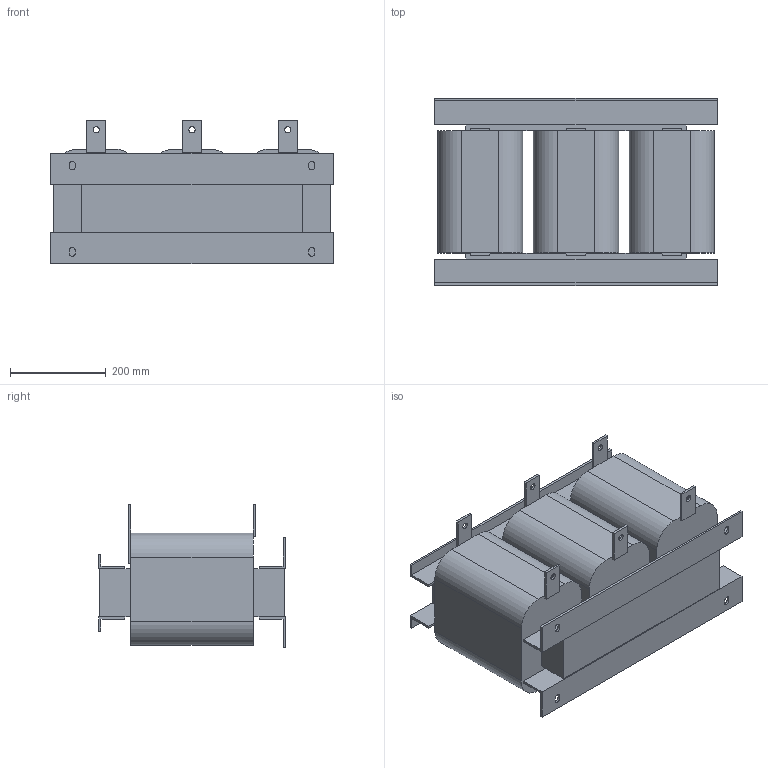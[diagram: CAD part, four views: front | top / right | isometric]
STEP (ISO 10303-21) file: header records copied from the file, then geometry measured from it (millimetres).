
FILE_DESCRIPTION(/* description */ (''),/* implementation_level */ '2;1');
FILE_NAME(/* name */ 'ACO-0430-T6-4.stp',/* time_stamp */ '2025-01-23T16:33:01+04:00',/* author */ ('Александр (огранич)'),/* organization */ (''),/* preprocessor_version */ 'ST-DEVELOPER v19.2',/* originating_system */ 'Autodesk Inventor 2024',/* authorisation */ '');
FILE_SCHEMA (('AUTOMOTIVE_DESIGN { 1 0 10303 214 3 1 1 }'));
Length unit declared in the file: millimetre
Products named in the file (1): ACO-0015-T4-4
Bounding box: 590 x 390 x 300 mm (x, y, z)
Volume: 37609609.3 mm3; surface area: 1293505.1 mm2
Topology: 1 solids, 1 shells, 136 faces, 378 edges, 240 vertices
Faces by surface type: plane 110, cylinder 26
Full cylindrical faces by diameter (mm): 13 x6
Entity records: 4357 total; most frequent: ORIENTED_EDGE 756, CARTESIAN_POINT 755, DIRECTION 704, EDGE_CURVE 378, LINE 326, VECTOR 326, VERTEX_POINT 240, AXIS2_PLACEMENT_3D 189
